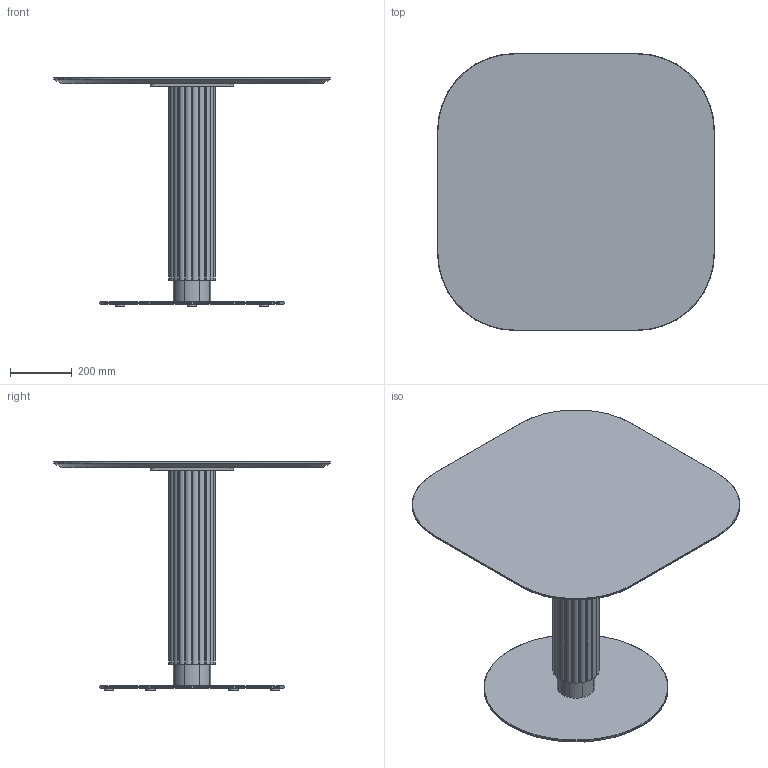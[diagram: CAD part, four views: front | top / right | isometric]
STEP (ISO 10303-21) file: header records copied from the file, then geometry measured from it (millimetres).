
FILE_DESCRIPTION( ('This file contains a STEP AP42 implementation' ,'as created by ZW3D STEP Interface translator.') ,'2;1' );
FILE_NAME( 'Godron - B_Rond - F2 - M5 - 900 x 900 x 750.stp' ,'24 912.12 823', (''), ('ZWCAD Software Co.'), 'Version 1.0', 'ZW3D to STEP translator', '' );
FILE_SCHEMA(('AUTOMOTIVE_DESIGN { 1 0 10303 214 1 1 1 1 }'));
Length unit declared in the file: millimetre
Products named in the file (15): 0; PIED BISTROT PARAMETRIQUE_; CROIX ACIER 370 V.02_; CRX-X370-02_; SOCLE ACIER C Ø600 V.02_; SCL-D600-02_; PLA-R30A-01_; PLA-R30A-01; COLONNE ACIER Ø48.5 V.02_; TUB-D048-02_; PLA-R48A-01_; Colonne GODRON H700_; WUERTH 0276063020 Euro-screw 6.3x2 Verzinkt_; PLATEAU BISTROT PARAMETRIQUE_; insert_m6_13_
Assembly tree (25 placements, depth 3):
  0
  PIED BISTROT PARAMETRIQUE_
    CROIX ACIER 370 V.02_
      CRX-X370-02_
    SOCLE ACIER C Ø600 V.02_
      SCL-D600-02_
      PLA-R30A-01_
      PLA-R30A-01  x5
    COLONNE ACIER Ø48.5 V.02_
      TUB-D048-02_
      PLA-R48A-01_  x2
    Colonne GODRON H700_
    WUERTH 0276063020 Euro-screw 6.3x2 Verzinkt_
    PLATEAU BISTROT PARAMETRIQUE_
      insert_m6_13_  x8
Bounding box: 900 x 900 x 744 mm (x, y, z)
Volume: 27845050.1 mm3; surface area: 3538115.5 mm2
Topology: 29 solids, 29 shells, 656 faces, 1625 edges, 1042 vertices
Faces by surface type: plane 294, cylinder 193, bspline 121, cone 47, torus 1
Full cylindrical faces by diameter (mm): 4.88 x1, 6 x8, 6.3 x1, 8 x47, 12 x2, 14 x2, 30 x6, 44.5 x3, 48.5 x1, 600 x1
Entity records: 16234 total; most frequent: CARTESIAN_POINT 4039, DIRECTION 2249, ORIENTED_EDGE 2240, EDGE_CURVE 1120, AXIS2_PLACEMENT_3D 800, VERTEX_POINT 728, VECTOR 649, LINE 649
